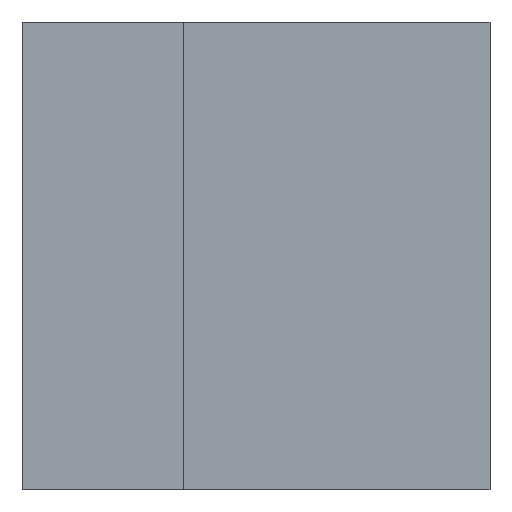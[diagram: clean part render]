
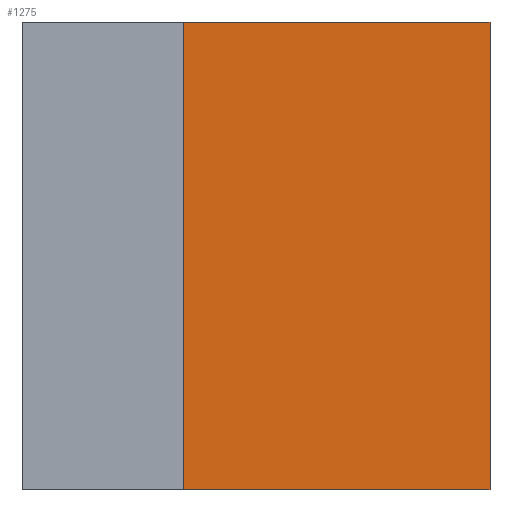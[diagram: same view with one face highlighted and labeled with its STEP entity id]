
A CAD part, left-side view. The second image highlights one B-rep face of the part: STEP entity #1275.
In plain terms, the highlighted planar face has unit normal (-1, 0, 0).
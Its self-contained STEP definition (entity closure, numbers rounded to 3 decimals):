
#184 = PLANE('',#185);
#185 = AXIS2_PLACEMENT_3D('',#186,#187,#188);
#186 = CARTESIAN_POINT('',(0.,0.,0.));
#187 = DIRECTION('',(0.,0.,1.));
#188 = DIRECTION('',(1.,0.,-0.));
#240 = PLANE('',#241);
#241 = AXIS2_PLACEMENT_3D('',#242,#243,#244);
#242 = CARTESIAN_POINT('',(0.,0.,49.807));
#243 = DIRECTION('',(0.,0.,1.));
#244 = DIRECTION('',(1.,0.,-0.));
#523 = PLANE('',#524);
#524 = AXIS2_PLACEMENT_3D('',#525,#526,#527);
#525 = CARTESIAN_POINT('',(0.,0.,0.));
#526 = DIRECTION('',(-0.,1.,0.));
#527 = DIRECTION('',(0.,0.,1.));
#707 = VERTEX_POINT('',#708);
#708 = CARTESIAN_POINT('',(28.086,32.591,
    49.807));
#722 = PLANE('',#723);
#723 = AXIS2_PLACEMENT_3D('',#724,#725,#726);
#724 = CARTESIAN_POINT('',(0.,32.591,49.807));
#725 = DIRECTION('',(0.,1.,0.));
#726 = DIRECTION('',(0.,0.,-1.));
#734 = EDGE_CURVE('',#735,#707,#737,.T.);
#735 = VERTEX_POINT('',#736);
#736 = CARTESIAN_POINT('',(28.086,0.,49.807));
#737 = SURFACE_CURVE('',#738,(#742,#749),.PCURVE_S1.);
#738 = LINE('',#739,#740);
#739 = CARTESIAN_POINT('',(28.086,0.,49.807));
#740 = VECTOR('',#741,1.);
#741 = DIRECTION('',(0.,1.,0.));
#742 = PCURVE('',#240,#743);
#743 = DEFINITIONAL_REPRESENTATION('',(#744),#748);
#744 = LINE('',#745,#746);
#745 = CARTESIAN_POINT('',(28.086,0.));
#746 = VECTOR('',#747,1.);
#747 = DIRECTION('',(0.,1.));
#748 = ( GEOMETRIC_REPRESENTATION_CONTEXT(2) 
PARAMETRIC_REPRESENTATION_CONTEXT() REPRESENTATION_CONTEXT('2D SPACE',''
  ) );
#749 = PCURVE('',#750,#755);
#750 = PLANE('',#751);
#751 = AXIS2_PLACEMENT_3D('',#752,#753,#754);
#752 = CARTESIAN_POINT('',(28.086,16.296,
    24.903));
#753 = DIRECTION('',(-1.,-0.,-0.));
#754 = DIRECTION('',(0.,0.,-1.));
#755 = DEFINITIONAL_REPRESENTATION('',(#756),#760);
#756 = LINE('',#757,#758);
#757 = CARTESIAN_POINT('',(-24.903,16.296));
#758 = VECTOR('',#759,1.);
#759 = DIRECTION('',(0.,-1.));
#760 = ( GEOMETRIC_REPRESENTATION_CONTEXT(2) 
PARAMETRIC_REPRESENTATION_CONTEXT() REPRESENTATION_CONTEXT('2D SPACE',''
  ) );
#937 = VERTEX_POINT('',#938);
#938 = CARTESIAN_POINT('',(28.086,32.591,0.));
#959 = EDGE_CURVE('',#937,#960,#962,.T.);
#960 = VERTEX_POINT('',#961);
#961 = CARTESIAN_POINT('',(28.086,0.,0.));
#962 = SURFACE_CURVE('',#963,(#967,#974),.PCURVE_S1.);
#963 = LINE('',#964,#965);
#964 = CARTESIAN_POINT('',(28.086,32.591,0.));
#965 = VECTOR('',#966,1.);
#966 = DIRECTION('',(0.,-1.,0.));
#967 = PCURVE('',#184,#968);
#968 = DEFINITIONAL_REPRESENTATION('',(#969),#973);
#969 = LINE('',#970,#971);
#970 = CARTESIAN_POINT('',(28.086,32.591));
#971 = VECTOR('',#972,1.);
#972 = DIRECTION('',(0.,-1.));
#973 = ( GEOMETRIC_REPRESENTATION_CONTEXT(2) 
PARAMETRIC_REPRESENTATION_CONTEXT() REPRESENTATION_CONTEXT('2D SPACE',''
  ) );
#974 = PCURVE('',#750,#975);
#975 = DEFINITIONAL_REPRESENTATION('',(#976),#980);
#976 = LINE('',#977,#978);
#977 = CARTESIAN_POINT('',(24.903,-16.296));
#978 = VECTOR('',#979,1.);
#979 = DIRECTION('',(0.,1.));
#980 = ( GEOMETRIC_REPRESENTATION_CONTEXT(2) 
PARAMETRIC_REPRESENTATION_CONTEXT() REPRESENTATION_CONTEXT('2D SPACE',''
  ) );
#1152 = EDGE_CURVE('',#960,#735,#1153,.T.);
#1153 = SURFACE_CURVE('',#1154,(#1158,#1165),.PCURVE_S1.);
#1154 = LINE('',#1155,#1156);
#1155 = CARTESIAN_POINT('',(28.086,0.,0.));
#1156 = VECTOR('',#1157,1.);
#1157 = DIRECTION('',(0.,0.,1.));
#1158 = PCURVE('',#523,#1159);
#1159 = DEFINITIONAL_REPRESENTATION('',(#1160),#1164);
#1160 = LINE('',#1161,#1162);
#1161 = CARTESIAN_POINT('',(0.,28.086));
#1162 = VECTOR('',#1163,1.);
#1163 = DIRECTION('',(1.,0.));
#1164 = ( GEOMETRIC_REPRESENTATION_CONTEXT(2) 
PARAMETRIC_REPRESENTATION_CONTEXT() REPRESENTATION_CONTEXT('2D SPACE',''
  ) );
#1165 = PCURVE('',#750,#1166);
#1166 = DEFINITIONAL_REPRESENTATION('',(#1167),#1171);
#1167 = LINE('',#1168,#1169);
#1168 = CARTESIAN_POINT('',(24.903,16.296));
#1169 = VECTOR('',#1170,1.);
#1170 = DIRECTION('',(-1.,0.));
#1171 = ( GEOMETRIC_REPRESENTATION_CONTEXT(2) 
PARAMETRIC_REPRESENTATION_CONTEXT() REPRESENTATION_CONTEXT('2D SPACE',''
  ) );
#1275 = ADVANCED_FACE('f014',(#1276),#750,.T.);
#1276 = FACE_BOUND('',#1277,.T.);
#1277 = EDGE_LOOP('',(#1278,#1279,#1280,#1281));
#1278 = ORIENTED_EDGE('',*,*,#959,.T.);
#1279 = ORIENTED_EDGE('',*,*,#1152,.T.);
#1280 = ORIENTED_EDGE('',*,*,#734,.T.);
#1281 = ORIENTED_EDGE('',*,*,#1282,.T.);
#1282 = EDGE_CURVE('',#707,#937,#1283,.T.);
#1283 = SURFACE_CURVE('',#1284,(#1288,#1295),.PCURVE_S1.);
#1284 = LINE('',#1285,#1286);
#1285 = CARTESIAN_POINT('',(28.086,32.591,
    49.807));
#1286 = VECTOR('',#1287,1.);
#1287 = DIRECTION('',(0.,0.,-1.));
#1288 = PCURVE('',#750,#1289);
#1289 = DEFINITIONAL_REPRESENTATION('',(#1290),#1294);
#1290 = LINE('',#1291,#1292);
#1291 = CARTESIAN_POINT('',(-24.903,-16.296));
#1292 = VECTOR('',#1293,1.);
#1293 = DIRECTION('',(1.,0.));
#1294 = ( GEOMETRIC_REPRESENTATION_CONTEXT(2) 
PARAMETRIC_REPRESENTATION_CONTEXT() REPRESENTATION_CONTEXT('2D SPACE',''
  ) );
#1295 = PCURVE('',#722,#1296);
#1296 = DEFINITIONAL_REPRESENTATION('',(#1297),#1301);
#1297 = LINE('',#1298,#1299);
#1298 = CARTESIAN_POINT('',(0.,-28.086));
#1299 = VECTOR('',#1300,1.);
#1300 = DIRECTION('',(1.,0.));
#1301 = ( GEOMETRIC_REPRESENTATION_CONTEXT(2) 
PARAMETRIC_REPRESENTATION_CONTEXT() REPRESENTATION_CONTEXT('2D SPACE',''
  ) );
